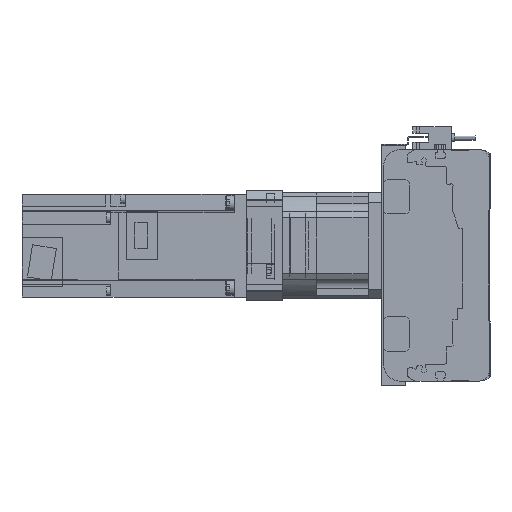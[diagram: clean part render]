
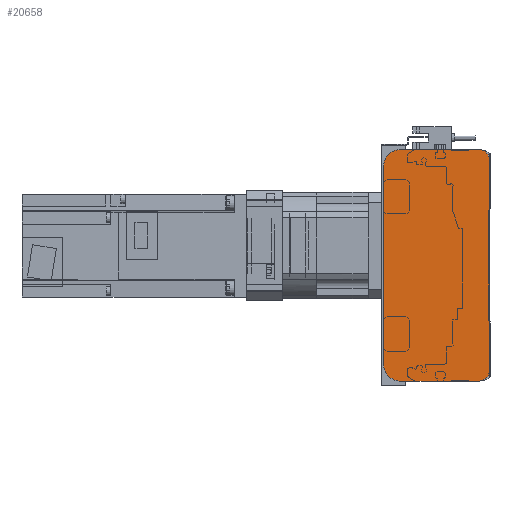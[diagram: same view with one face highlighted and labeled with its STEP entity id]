
A CAD part, left-side view. The second image highlights one B-rep face of the part: STEP entity #20658.
In plain terms, the highlighted planar face has unit normal (-1, 0, 0).
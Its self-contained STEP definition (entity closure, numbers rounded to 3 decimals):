
#1336=CIRCLE('',#22629,5.);
#1337=CIRCLE('',#22632,5.);
#1338=CIRCLE('',#22635,10.);
#1339=CIRCLE('',#22638,10.);
#6073=ORIENTED_EDGE('',*,*,#9373,.F.);
#6074=ORIENTED_EDGE('',*,*,#9530,.F.);
#6075=ORIENTED_EDGE('',*,*,#9522,.F.);
#6076=ORIENTED_EDGE('',*,*,#9520,.F.);
#6077=ORIENTED_EDGE('',*,*,#9151,.F.);
#6078=ORIENTED_EDGE('',*,*,#9519,.F.);
#6079=ORIENTED_EDGE('',*,*,#9517,.F.);
#6080=ORIENTED_EDGE('',*,*,#9515,.F.);
#6081=ORIENTED_EDGE('',*,*,#9513,.F.);
#6082=ORIENTED_EDGE('',*,*,#9511,.F.);
#9151=EDGE_CURVE('',#11382,#11383,#13198,.T.);
#9373=EDGE_CURVE('',#11483,#11484,#13341,.T.);
#9511=EDGE_CURVE('',#11484,#11567,#13470,.T.);
#9513=EDGE_CURVE('',#11567,#11568,#1336,.T.);
#9515=EDGE_CURVE('',#11568,#11569,#13473,.T.);
#9517=EDGE_CURVE('',#11569,#11570,#1337,.T.);
#9519=EDGE_CURVE('',#11570,#11382,#13476,.T.);
#9520=EDGE_CURVE('',#11383,#11571,#1338,.T.);
#9522=EDGE_CURVE('',#11571,#11572,#13478,.T.);
#9530=EDGE_CURVE('',#11572,#11483,#1339,.T.);
#11382=VERTEX_POINT('',#34056);
#11383=VERTEX_POINT('',#34058);
#11483=VERTEX_POINT('',#34455);
#11484=VERTEX_POINT('',#34457);
#11567=VERTEX_POINT('',#34734);
#11568=VERTEX_POINT('',#34738);
#11569=VERTEX_POINT('',#34742);
#11570=VERTEX_POINT('',#34746);
#11571=VERTEX_POINT('',#34752);
#11572=VERTEX_POINT('',#34756);
#13198=LINE('',#34057,#14981);
#13341=LINE('',#34456,#15124);
#13470=LINE('',#34733,#15253);
#13473=LINE('',#34741,#15256);
#13476=LINE('',#34749,#15259);
#13478=LINE('',#34755,#15261);
#14981=VECTOR('',#27348,1000.);
#15124=VECTOR('',#27801,1000.);
#15253=VECTOR('',#28060,1000.);
#15256=VECTOR('',#28069,1000.);
#15259=VECTOR('',#28078,1000.);
#15261=VECTOR('',#28086,1000.);
#16703=EDGE_LOOP('',(#6073,#6074,#6075,#6076,#6077,#6078,#6079,#6080,#6081,
#6082));
#18532=FACE_BOUND('',#16703,.T.);
#19591=PLANE('',#22639);
#20658=ADVANCED_FACE('',(#18532),#19591,.F.);
#22629=AXIS2_PLACEMENT_3D('',#34737,#28064,#28065);
#22632=AXIS2_PLACEMENT_3D('',#34745,#28073,#28074);
#22635=AXIS2_PLACEMENT_3D('',#34751,#28081,#28082);
#22638=AXIS2_PLACEMENT_3D('',#34769,#28096,#28097);
#22639=AXIS2_PLACEMENT_3D('',#34770,#28098,#28099);
#27348=DIRECTION('',(0.,1.,0.));
#27801=DIRECTION('',(0.,-1.,0.));
#28060=DIRECTION('',(0.,-0.942,-0.336));
#28064=DIRECTION('',(1.,0.,0.));
#28065=DIRECTION('',(0.,0.,-1.));
#28069=DIRECTION('',(0.,0.,-1.));
#28073=DIRECTION('',(1.,0.,0.));
#28074=DIRECTION('',(0.,0.,-1.));
#28078=DIRECTION('',(0.,0.942,-0.336));
#28081=DIRECTION('',(1.,0.,0.));
#28082=DIRECTION('',(0.,0.,-1.));
#28086=DIRECTION('',(0.,0.,1.));
#28096=DIRECTION('',(1.,0.,0.));
#28097=DIRECTION('',(0.,0.,-1.));
#28098=DIRECTION('',(1.,0.,0.));
#28099=DIRECTION('',(0.,0.,-1.));
#34056=CARTESIAN_POINT('',(-10.,6.,-67.5));
#34057=CARTESIAN_POINT('',(-10.,6.,-67.5));
#34058=CARTESIAN_POINT('',(-10.,52.,-67.5));
#34455=CARTESIAN_POINT('',(-10.,52.,67.5));
#34456=CARTESIAN_POINT('',(-10.,52.,67.5));
#34457=CARTESIAN_POINT('',(-10.,6.,67.5));
#34733=CARTESIAN_POINT('',(-10.,6.,67.5));
#34734=CARTESIAN_POINT('',(-10.,3.822,66.724));
#34737=CARTESIAN_POINT('',(-10.,5.5,62.014));
#34738=CARTESIAN_POINT('',(-10.,0.5,62.014));
#34741=CARTESIAN_POINT('',(-10.,0.5,62.014));
#34742=CARTESIAN_POINT('',(-10.,0.5,-62.014));
#34745=CARTESIAN_POINT('',(-10.,5.5,-62.014));
#34746=CARTESIAN_POINT('',(-10.,3.822,-66.724));
#34749=CARTESIAN_POINT('',(-10.,3.822,-66.724));
#34751=CARTESIAN_POINT('',(-10.,52.,-57.5));
#34752=CARTESIAN_POINT('',(-10.,62.,-57.5));
#34755=CARTESIAN_POINT('',(-10.,62.,-57.5));
#34756=CARTESIAN_POINT('',(-10.,62.,57.5));
#34769=CARTESIAN_POINT('',(-10.,52.,57.5));
#34770=CARTESIAN_POINT('',(-10.,5.5,62.014));
